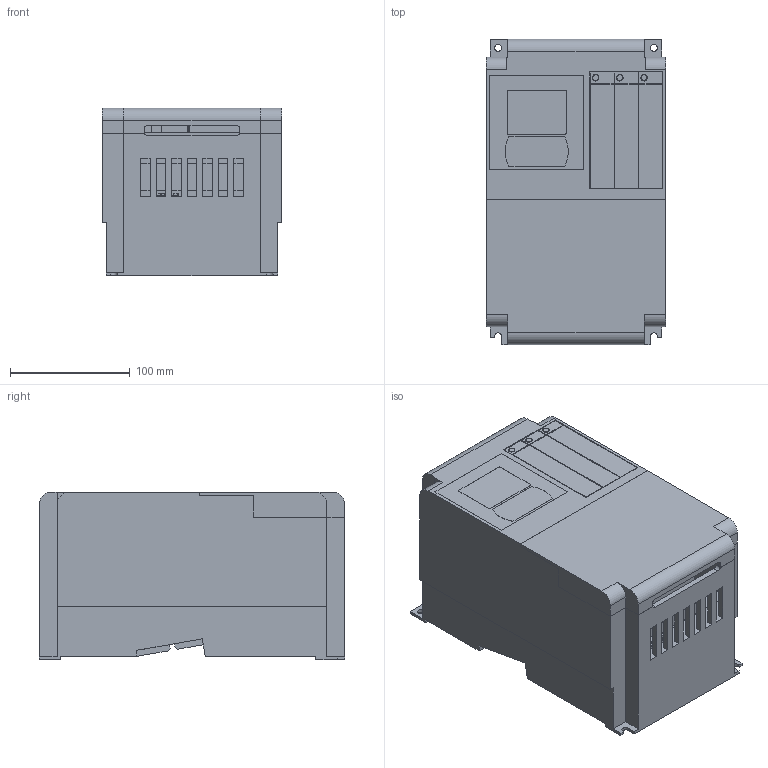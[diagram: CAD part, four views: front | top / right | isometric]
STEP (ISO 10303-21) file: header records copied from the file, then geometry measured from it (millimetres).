
FILE_DESCRIPTION(('FreeCAD Model'),'2;1');
FILE_NAME('C:/3D-Step/Hitachi/SJ-P1/P1_neu/P1-00041...00126HFEF.step', '2020-10-23T11:21:16',('Author'),(''), 'Open CASCADE STEP processor 6.8','FreeCAD','Unknown');
FILE_SCHEMA(('AUTOMOTIVE_DESIGN_CC2 { 1 2 10303 214 -1 1 5 4 }'));
Length unit declared in the file: millimetre
Products named in the file (5): ASSEMBLY; _Cover_Option_Slot_2; _VOP_; _Terminal_Cover_; _Body_P1_00041-00126H
Assembly tree (6 placements, depth 2):
  ASSEMBLY
    _Cover_Option_Slot_2  x3
    _VOP_
    _Terminal_Cover_
    _Body_P1_00041-00126H
Bounding box: 150 x 255 x 140.1 mm (x, y, z)
Volume: 4030316.6 mm3; surface area: 317090.4 mm2
Topology: 6 solids, 6 shells, 605 faces, 1738 edges, 1158 vertices
Faces by surface type: plane 575, cylinder 27, torus 3
Full cylindrical faces by diameter (mm): 5.986 x2
Entity records: 47251 total; most frequent: CARTESIAN_POINT 9368, DIRECTION 6172, LINE 4829, VECTOR 4829, ORIENTED_EDGE 3368, PCURVE 3368, DEFINITIONAL_REPRESENTATION 3368, EDGE_CURVE 1684
